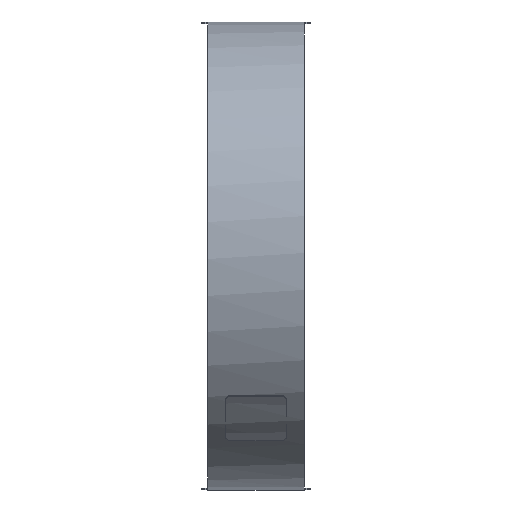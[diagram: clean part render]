
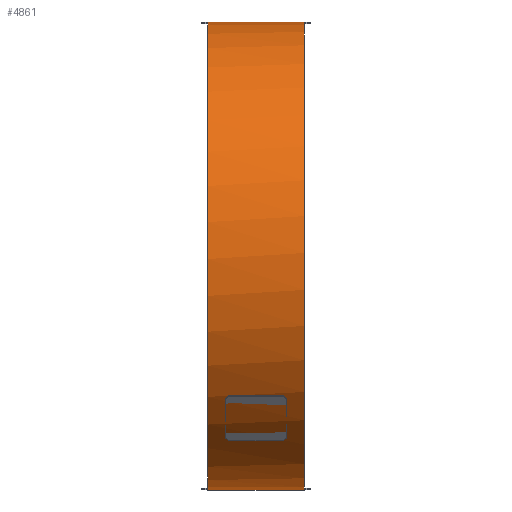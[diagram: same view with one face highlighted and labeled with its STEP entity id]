
A CAD part, left-side view. The second image highlights one B-rep face of the part: STEP entity #4861.
In plain terms, the highlighted cylindrical face has radius 30.183 mm (diameter 60.365 mm), a partial arc.
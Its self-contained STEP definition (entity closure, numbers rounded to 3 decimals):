
#4830 = VERTEX_POINT('',#4831);
#4831 = CARTESIAN_POINT('',(138.074,84.7,
    -60.328));
#4837 = EDGE_CURVE('',#4838,#4830,#4840,.T.);
#4838 = VERTEX_POINT('',#4839);
#4839 = CARTESIAN_POINT('',(138.074,84.7,
    0.038));
#4840 = B_SPLINE_CURVE_WITH_KNOTS('',8,(#4841,#4842,#4843,#4844,#4845,
    #4846,#4847,#4848,#4849),.UNSPECIFIED.,.F.,.F.,(9,9),(0.,
    3.142),.PIECEWISE_BEZIER_KNOTS.);
#4841 = CARTESIAN_POINT('',(138.074,84.7,
    0.038));
#4842 = CARTESIAN_POINT('',(126.221,84.7,
    0.038));
#4843 = CARTESIAN_POINT('',(114.369,84.7,
    -5.283));
#4844 = CARTESIAN_POINT('',(105.302,84.7,
    -15.915));
#4845 = CARTESIAN_POINT('',(101.8,84.7,
    -30.145));
#4846 = CARTESIAN_POINT('',(105.302,84.7,
    -44.375));
#4847 = CARTESIAN_POINT('',(114.369,84.7,
    -55.007));
#4848 = CARTESIAN_POINT('',(126.221,84.7,
    -60.328));
#4849 = CARTESIAN_POINT('',(138.074,84.7,
    -60.328));
#4861 = ADVANCED_FACE('',(#4862),#4891,.T.);
#4862 = FACE_BOUND('',#4863,.F.);
#4863 = EDGE_LOOP('',(#4864,#4865,#4872,#4886));
#4864 = ORIENTED_EDGE('',*,*,#4837,.F.);
#4865 = ORIENTED_EDGE('',*,*,#4866,.F.);
#4866 = EDGE_CURVE('',#4867,#4838,#4869,.T.);
#4867 = VERTEX_POINT('',#4868);
#4868 = CARTESIAN_POINT('',(138.074,72.2,
    0.038));
#4869 = B_SPLINE_CURVE_WITH_KNOTS('',1,(#4870,#4871),.UNSPECIFIED.,.F.,
  .F.,(2,2),(0.,12.5),.PIECEWISE_BEZIER_KNOTS.);
#4870 = CARTESIAN_POINT('',(138.074,72.2,
    0.038));
#4871 = CARTESIAN_POINT('',(138.074,84.7,
    0.038));
#4872 = ORIENTED_EDGE('',*,*,#4873,.F.);
#4873 = EDGE_CURVE('',#4874,#4867,#4876,.T.);
#4874 = VERTEX_POINT('',#4875);
#4875 = CARTESIAN_POINT('',(138.074,72.2,
    -60.328));
#4876 = B_SPLINE_CURVE_WITH_KNOTS('',8,(#4877,#4878,#4879,#4880,#4881,
    #4882,#4883,#4884,#4885),.UNSPECIFIED.,.F.,.F.,(9,9),(0.,
    3.142),.PIECEWISE_BEZIER_KNOTS.);
#4877 = CARTESIAN_POINT('',(138.074,72.2,
    -60.328));
#4878 = CARTESIAN_POINT('',(126.221,72.2,
    -60.328));
#4879 = CARTESIAN_POINT('',(114.369,72.2,
    -55.007));
#4880 = CARTESIAN_POINT('',(105.302,72.2,
    -44.375));
#4881 = CARTESIAN_POINT('',(101.8,72.2,
    -30.145));
#4882 = CARTESIAN_POINT('',(105.302,72.2,
    -15.915));
#4883 = CARTESIAN_POINT('',(114.369,72.2,
    -5.283));
#4884 = CARTESIAN_POINT('',(126.221,72.2,
    0.038));
#4885 = CARTESIAN_POINT('',(138.074,72.2,
    0.038));
#4886 = ORIENTED_EDGE('',*,*,#4887,.F.);
#4887 = EDGE_CURVE('',#4830,#4874,#4888,.T.);
#4888 = B_SPLINE_CURVE_WITH_KNOTS('',1,(#4889,#4890),.UNSPECIFIED.,.F.,
  .F.,(2,2),(0.,12.5),.PIECEWISE_BEZIER_KNOTS.);
#4889 = CARTESIAN_POINT('',(138.074,84.7,
    -60.328));
#4890 = CARTESIAN_POINT('',(138.074,72.2,
    -60.328));
#4891 = CYLINDRICAL_SURFACE('',#4892,30.183);
#4892 = AXIS2_PLACEMENT_3D('',#4893,#4894,#4895);
#4893 = CARTESIAN_POINT('',(138.074,88.45,
    -30.145));
#4894 = DIRECTION('',(0.,-1.,0.));
#4895 = DIRECTION('',(0.,0.,1.));
